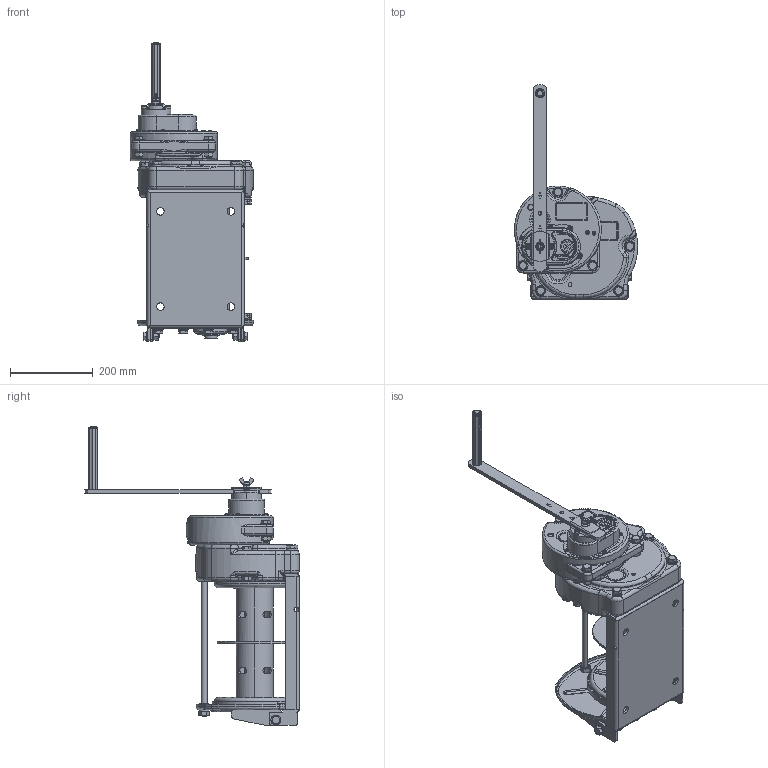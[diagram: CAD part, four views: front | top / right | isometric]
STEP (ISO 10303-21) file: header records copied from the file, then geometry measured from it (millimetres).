
FILE_DESCRIPTION( (''), '2;1');
FILE_NAME ('GM-30-NWD-SI.stp','2023-12-28T16:44:09',(''),(''),'spGate 19.8.2 (****-****-****-****)','','');
FILE_SCHEMA (('AUTOMOTIVE_DESIGN'));
Length unit declared in the file: millimetre
Products named in the file (5): Assembly; GM-30-NWD-SI-prt0; GM-30-NWD-SI-prt1; GM-30-NWD-SI-prt2; GM-30-NWD-SI-prt3
Assembly tree (4 placements, depth 2):
  Assembly
    GM-30-NWD-SI-prt0
    GM-30-NWD-SI-prt1
    GM-30-NWD-SI-prt2
    GM-30-NWD-SI-prt3
Bounding box: 297.43 x 518.43 x 723.3 mm (x, y, z)
Volume: 10490738.4 mm3; surface area: 1232761.9 mm2
Topology: 2 solids, 2 shells, 3396 faces, 8686 edges, 5389 vertices
Faces by surface type: plane 1607, cylinder 1032, bspline 683, sphere 74
Entity records: 186702 total; most frequent: CARTESIAN_POINT 38611, ORIENTED_EDGE 17168, DIRECTION 16212, COLOUR_RGB 11984, PRESENTATION_STYLE_ASSIGNMENT 11984, STYLED_ITEM 11984, EDGE_CURVE 8584, DRAUGHTING_PRE_DEFINED_CURVE_FONT 8584
